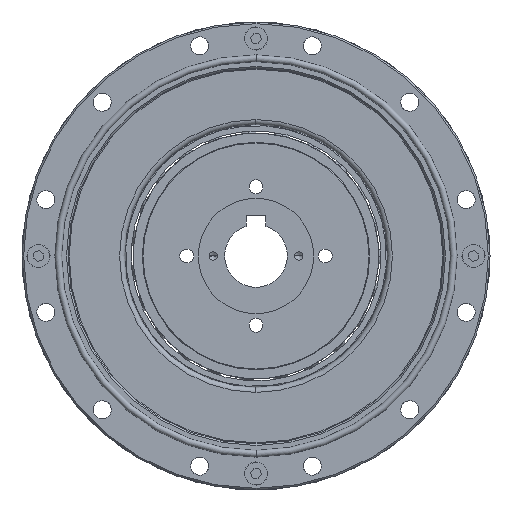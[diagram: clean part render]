
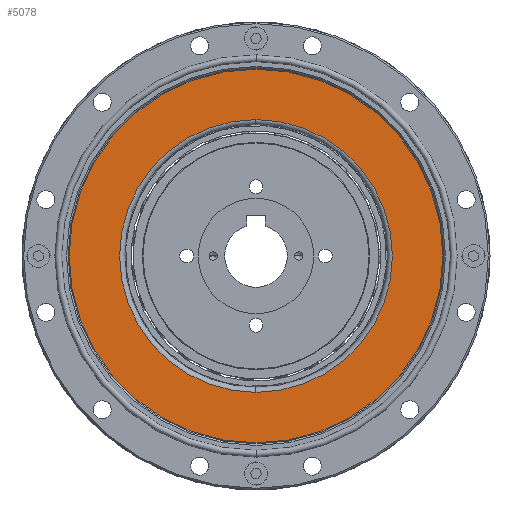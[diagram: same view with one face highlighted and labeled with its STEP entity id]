
A CAD part, left-side view. The second image highlights one B-rep face of the part: STEP entity #5078.
In plain terms, the highlighted planar face has unit normal (-1, 0, 0).
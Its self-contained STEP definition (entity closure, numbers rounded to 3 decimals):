
#648 = ORIENTED_EDGE ( 'NONE', *, *, #4811, .F. ) ;
#675 = CARTESIAN_POINT ( 'NONE',  ( -20.25, 0., 0. ) ) ;
#837 = EDGE_CURVE ( 'NONE', #1325, #27767, #20691, .T. ) ;
#1016 = ORIENTED_EDGE ( 'NONE', *, *, #18812, .F. ) ;
#1325 = VERTEX_POINT ( 'NONE', #10201 ) ;
#1417 = DIRECTION ( 'NONE',  ( -1., 0., 0. ) ) ;
#1960 = AXIS2_PLACEMENT_3D ( 'NONE', #9102, #1417, #3735 ) ;
#2313 = DIRECTION ( 'NONE',  ( -1., 0., 0. ) ) ;
#2841 = DIRECTION ( 'NONE',  ( 0., 0., -1. ) ) ;
#3209 = CARTESIAN_POINT ( 'NONE',  ( -20.25, 57., 0. ) ) ;
#3327 = DIRECTION ( 'NONE',  ( 0., 0., 1. ) ) ;
#3353 = AXIS2_PLACEMENT_3D ( 'NONE', #5645, #2313, #21464 ) ;
#3735 = DIRECTION ( 'NONE',  ( 0., 0., 1. ) ) ;
#4811 = EDGE_CURVE ( 'NONE', #16620, #32097, #31717, .T. ) ;
#5078 = ADVANCED_FACE ( 'NONE', ( #28341, #22219 ), #32083, .F. ) ;
#5270 = EDGE_LOOP ( 'NONE', ( #648, #1016 ) ) ;
#5645 = CARTESIAN_POINT ( 'NONE',  ( -20.25, 0., 0. ) ) ;
#9102 = CARTESIAN_POINT ( 'NONE',  ( -20.25, 0., 0. ) ) ;
#9869 = CARTESIAN_POINT ( 'NONE',  ( -20.25, 0., 41.378 ) ) ;
#10201 = CARTESIAN_POINT ( 'NONE',  ( -20.25, 0., -56.7 ) ) ;
#10466 = DIRECTION ( 'NONE',  ( -1., 0., 0. ) ) ;
#10661 = CARTESIAN_POINT ( 'NONE',  ( -20.25, 0., -41.378 ) ) ;
#11238 = AXIS2_PLACEMENT_3D ( 'NONE', #3209, #31970, #2841 ) ;
#11660 = ORIENTED_EDGE ( 'NONE', *, *, #837, .T. ) ;
#14925 = AXIS2_PLACEMENT_3D ( 'NONE', #26260, #10466, #28881 ) ;
#15442 = AXIS2_PLACEMENT_3D ( 'NONE', #675, #19099, #3327 ) ;
#16620 = VERTEX_POINT ( 'NONE', #9869 ) ;
#17146 = CIRCLE ( 'NONE', #15442, 41.378 ) ;
#17708 = CIRCLE ( 'NONE', #14925, 56.7 ) ;
#17864 = EDGE_CURVE ( 'NONE', #27767, #1325, #17708, .T. ) ;
#18812 = EDGE_CURVE ( 'NONE', #32097, #16620, #17146, .T. ) ;
#19099 = DIRECTION ( 'NONE',  ( -1., 0., 0. ) ) ;
#19588 = ORIENTED_EDGE ( 'NONE', *, *, #17864, .T. ) ;
#20691 = CIRCLE ( 'NONE', #3353, 56.7 ) ;
#21464 = DIRECTION ( 'NONE',  ( 0., 0., -1. ) ) ;
#22219 = FACE_BOUND ( 'NONE', #5270, .T. ) ;
#25078 = CARTESIAN_POINT ( 'NONE',  ( -20.25, 0., 56.7 ) ) ;
#26260 = CARTESIAN_POINT ( 'NONE',  ( -20.25, 0., 0. ) ) ;
#27767 = VERTEX_POINT ( 'NONE', #25078 ) ;
#28341 = FACE_OUTER_BOUND ( 'NONE', #34180, .T. ) ;
#28881 = DIRECTION ( 'NONE',  ( 0., 0., -1. ) ) ;
#31717 = CIRCLE ( 'NONE', #1960, 41.378 ) ;
#31970 = DIRECTION ( 'NONE',  ( 1., 0., 0. ) ) ;
#32083 = PLANE ( 'NONE',  #11238 ) ;
#32097 = VERTEX_POINT ( 'NONE', #10661 ) ;
#34180 = EDGE_LOOP ( 'NONE', ( #11660, #19588 ) ) ;
